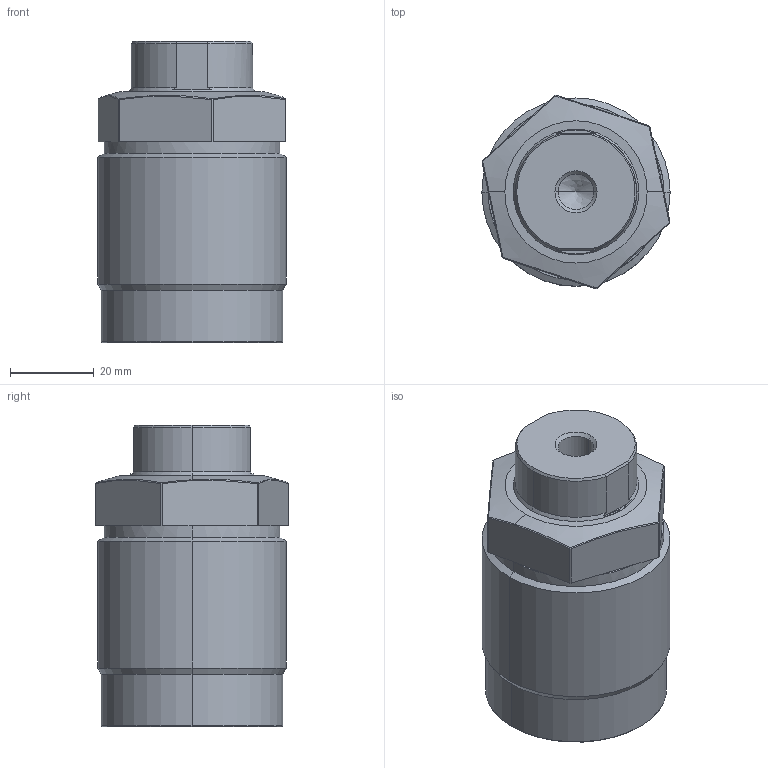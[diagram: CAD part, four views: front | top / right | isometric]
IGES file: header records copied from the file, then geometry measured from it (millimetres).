
Start section: SolidWorks IGES file using analytic representation for surfaces
Global section: file name: F:\THREADED BODY PUSHER-STD\TO3C-M455-M.IGS; native system: SolidWorks 2019; preprocessor: SolidWorks 2019; author: ADMIN; date: 200710.103021; units: millimetre
Bounding box: 45 x 46.2 x 72 mm (x, y, z)
Volume: 105594.2 mm3; surface area: 21294.5 mm2
Topology: 2 solids, 2 shells, 98 faces, 210 edges, 119 vertices
Faces by surface type: revolution 48, plane 44, bspline 6
